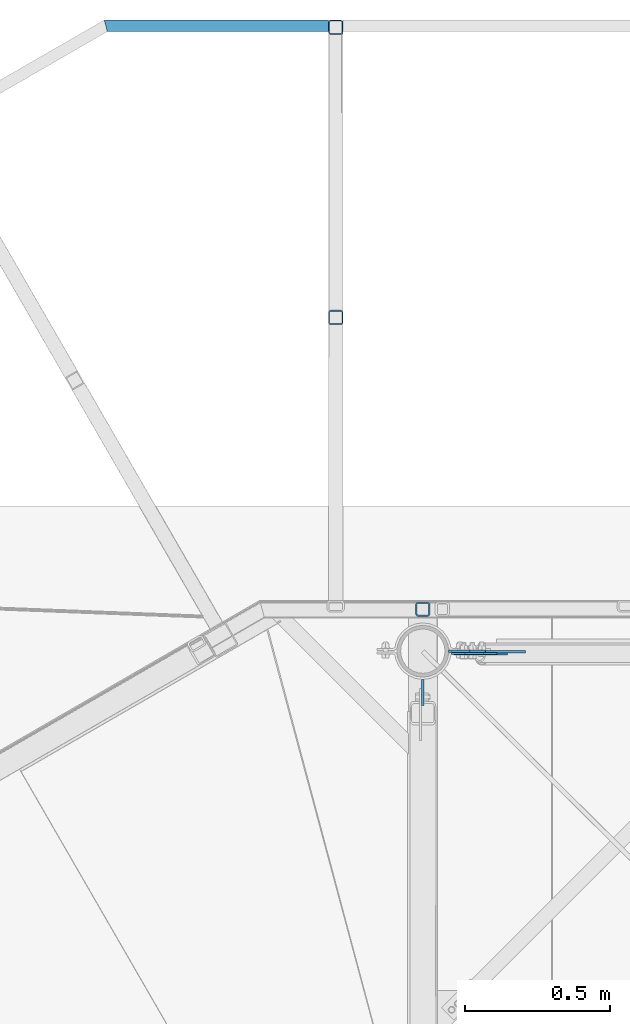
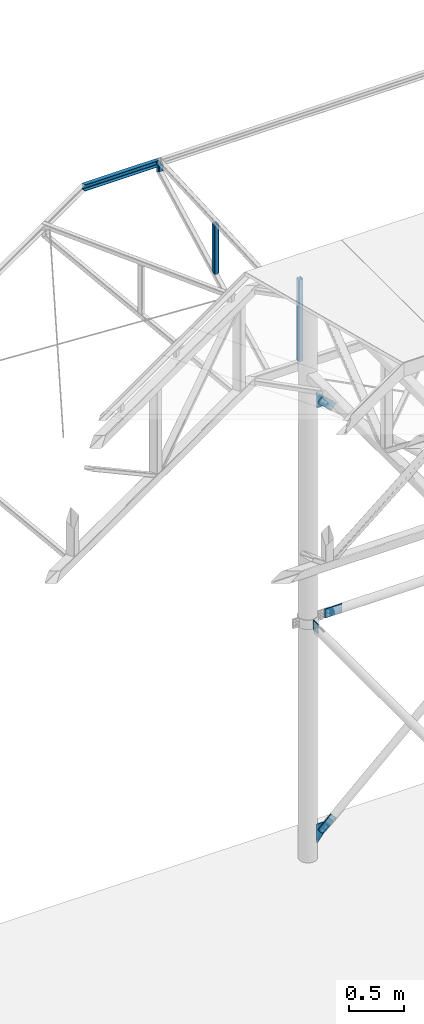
# One storey, part 89 of 132: 13 discrete accessories, 10 elements without a shape of their own.
"""IFC2X3 building model written with IfcOpenShell, lengths in millimetres."""

from ifc_helpers import new_model, si_unit, frame, origin_with_axes, origin_2d_with_axis, place, context, subcontext, project, spatial, polyline, rectangle, hollow_rectangle, u_section, outline, extrude, boolean, clip, halfspace, material, type_object, element, aggregate, save


model = new_model("IFC2X3")

# Units and contexts
model_context = context("Model", 3, precision=1e-05, world=origin_with_axes())
body_context = subcontext(model_context, "Body", "Model", "MODEL_VIEW")
ifc_project = project(units=[si_unit("LENGTHUNIT", "METRE", prefix="MILLI"), si_unit("AREAUNIT", "SQUARE_METRE"), si_unit("VOLUMEUNIT", "CUBIC_METRE"), si_unit("MASSUNIT", "GRAM", prefix="KILO"), si_unit("TIMEUNIT", "SECOND"), si_unit("PLANEANGLEUNIT", "RADIAN"), si_unit("SOLIDANGLEUNIT", "STERADIAN"), si_unit("THERMODYNAMICTEMPERATUREUNIT", "DEGREE_CELSIUS"), si_unit("LUMINOUSINTENSITYUNIT", "LUMEN")], contexts=[model_context])

# Site, building, storey
site_placement = place(None, origin_with_axes())
site = spatial("IfcSite", under=ifc_project, at=site_placement, Name="Budowa", CompositionType="ELEMENT")
building_placement = place(site_placement, origin_with_axes())
building = spatial("IfcBuilding", under=site, at=building_placement, Name="Undefined", CompositionType="ELEMENT")
storey_placement = place(building_placement, origin_with_axes())
storey = spatial("IfcBuildingStorey", under=building, at=storey_placement, Name="Undefined", CompositionType="ELEMENT", Elevation=0.0)

# Assembly, discrete accessory
assembly_1_placement = place(storey_placement, origin_with_axes())
assembly_1 = element("IfcElementAssembly", 1, at=assembly_1_placement, inside=storey, Name="Steel Assembly", AssemblyPlace="NOTDEFINED", PredefinedType="RIGID_FRAME")
ifc_material = material(Name="STEEL/S235")
discrete_accessory_type_1 = type_object("IfcDiscreteAccessoryType", Name="BLACHA")
discrete_accessory_1_placement = place(assembly_1_placement, frame((9513.89999968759, 23999.9990001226, 7825.00048828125), z_axis=(0.0, -1.0, 0.0), x_axis=(0.0, 0.0, -1.0)))
discrete_accessory_1 = element("IfcDiscreteAccessory", 2, at=discrete_accessory_1_placement, type_object=discrete_accessory_type_1, material=ifc_material, Name="BLACHA", ObjectType="BL8*126", context=body_context, shape_type="SweptSolid", body=[
    extrude(outline(polyline([(0.0, 0.0), (203.000061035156, 0.0), (203.000061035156, 10.0), (57.9996109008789, 126.000587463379), (-9.02218744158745e-10, 73.001091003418), (0.0, 0.0)])), frame((0.0, 0.0, -4.0), z_axis=(0.0, 0.0, 1.0), x_axis=(1.0, 0.0, 0.0)), (0.0, 0.0, 1.0), 8.0),
])

assembly_2_placement = place(storey_placement, origin_with_axes())
assembly_2 = element("IfcElementAssembly", 3, at=assembly_2_placement, inside=storey, Name="Steel Assembly", AssemblyPlace="NOTDEFINED", PredefinedType="RIGID_FRAME")
discrete_accessory_2_placement = place(assembly_2_placement, frame((9547.31003908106, 23989.9999976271, 7734.82673924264), z_axis=(0.67855182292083, 0.0, -0.734552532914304), x_axis=(0.734552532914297, 0.0, 0.678551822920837)))
discrete_accessory_2 = element("IfcDiscreteAccessory", 4, at=discrete_accessory_2_placement, type_object=discrete_accessory_type_1, material=ifc_material, Name="BLACHA", ObjectType="BL8*86", context=body_context, shape_type="CSG", body=[
    boolean("DIFFERENCE", boolean("DIFFERENCE", extrude(rectangle(XDim=8.0, YDim=86.0, at=origin_2d_with_axis()), frame((190.000000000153, -3.63797880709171e-12, 3.30513394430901e-13), z_axis=(-1.0, 0.0, 0.0), x_axis=(0.0, -1.0, 0.0)), (0.0, 0.0, 1.0), 190.0), extrude(outline(polyline([(0.0, 0.0), (20.0000000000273, -3.63797880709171e-12), (5.45696821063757e-12, 20.0000000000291), (0.0, 0.0)])), frame((-1.81898940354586e-12, 6.49999757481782, 42.9999999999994), z_axis=(0.0, -1.0, 0.0), x_axis=(0.0, 0.0, -1.0)), (0.0, 0.0, 1.0), 13.0)), extrude(outline(polyline([(0.0, 0.0), (20.0000000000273, -3.63797880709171e-12), (5.45696821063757e-12, 20.0000000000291), (0.0, 0.0)])), frame((-1.81898940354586e-12, -6.50000242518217, -42.9999999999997), z_axis=(0.0, 1.0, 0.0), x_axis=(0.0, 0.0, 1.0)), (0.0, 0.0, 1.0), 13.0)),
])
aggregate(assembly_2, [discrete_accessory_2])

assembly_3_placement = place(storey_placement, origin_with_axes())
assembly_3 = element("IfcElementAssembly", 5, at=assembly_3_placement, inside=storey, Name="Steel Assembly", AssemblyPlace="NOTDEFINED", PredefinedType="RIGID_FRAME")
discrete_accessory_3_placement = place(assembly_3_placement, frame((9547.31003885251, 23989.9999975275, 12497.1740173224), z_axis=(-0.67855182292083, 0.0, -0.734552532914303), x_axis=(0.734552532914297, 0.0, -0.678551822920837)))
discrete_accessory_3 = element("IfcDiscreteAccessory", 6, at=discrete_accessory_3_placement, type_object=discrete_accessory_type_1, material=ifc_material, Name="BLACHA", ObjectType="BL8*86", context=body_context, shape_type="CSG", body=[
    boolean("DIFFERENCE", boolean("DIFFERENCE", extrude(rectangle(XDim=8.0, YDim=86.0, at=origin_2d_with_axis()), frame((190.000000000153, -3.63797880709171e-12, 3.30513394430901e-13), z_axis=(-1.0, 0.0, 0.0), x_axis=(0.0, -1.0, 0.0)), (0.0, 0.0, 1.0), 190.0), extrude(outline(polyline([(0.0, 0.0), (20.0000000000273, -3.63797880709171e-12), (5.45696821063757e-12, 20.0000000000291), (0.0, 0.0)])), frame((-1.81898940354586e-12, 6.49999757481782, 42.9999999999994), z_axis=(0.0, -1.0, 0.0), x_axis=(0.0, 0.0, -1.0)), (0.0, 0.0, 1.0), 13.0)), extrude(outline(polyline([(0.0, 0.0), (20.0000000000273, -3.63797880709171e-12), (5.45696821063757e-12, 20.0000000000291), (0.0, 0.0)])), frame((-1.81898940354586e-12, -6.50000242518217, -42.9999999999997), z_axis=(0.0, 1.0, 0.0), x_axis=(0.0, 0.0, 1.0)), (0.0, 0.0, 1.0), 13.0)),
])
aggregate(assembly_3, [discrete_accessory_3])

assembly_4_placement = place(storey_placement, origin_with_axes())
assembly_4 = element("IfcElementAssembly", 7, at=assembly_4_placement, inside=storey, Name="Steel Assembly", AssemblyPlace="NOTDEFINED", PredefinedType="RIGID_FRAME")
discrete_accessory_4_placement = place(assembly_4_placement, frame((9425.00000249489, 23902.0043566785, 10166.0003799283), z_axis=(-1.0, 0.0, 0.0), x_axis=(0.0, 0.0, -1.0)))
discrete_accessory_4 = element("IfcDiscreteAccessory", 8, at=discrete_accessory_4_placement, type_object=discrete_accessory_type_1, material=ifc_material, Name="BLACHA", ObjectType="BL8*90", context=body_context, shape_type="SweptSolid", body=[
    extrude(outline(polyline([(0.0, 0.0), (100.0, 0.0), (100.0, 89.9122619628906), (0.0, 89.9122619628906), (0.0, 0.0)])), frame((0.0, 0.0, -4.0), z_axis=(0.0, 0.0, 1.0), x_axis=(1.0, 0.0, 0.0)), (0.0, 0.0, 1.0), 8.0),
])
aggregate(assembly_4, [discrete_accessory_4])

assembly_5_placement = place(storey_placement, origin_with_axes())
assembly_5 = element("IfcElementAssembly", 9, at=assembly_5_placement, inside=storey, Name="Steel Assembly", AssemblyPlace="NOTDEFINED", PredefinedType="RIGID_FRAME")
discrete_accessory_5_placement = place(assembly_5_placement, frame((9598.1366940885, 23997.9999994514, 10116.0003779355), z_axis=(0.0, -1.0, 0.0), x_axis=(1.0, 0.0, 0.0)))
discrete_accessory_5 = element("IfcDiscreteAccessory", 10, at=discrete_accessory_5_placement, type_object=discrete_accessory_type_1, material=ifc_material, Name="BLACHA", ObjectType="BL8*100", context=body_context, shape_type="SweptSolid", body=[
    extrude(outline(polyline([(0.0, -50.0), (0.0, 50.0), (180.0, 50.0), (180.0, -50.0), (0.0, -50.0)])), frame((0.0, 0.0, -4.0), z_axis=(0.0, 0.0, 1.0), x_axis=(1.0, 0.0, 0.0)), (0.0, 0.0, 1.0), 8.0),
])
aggregate(assembly_5, [discrete_accessory_5])

assembly_6_placement = place(storey_placement, origin_with_axes())
assembly_6 = element("IfcElementAssembly", 11, at=assembly_6_placement, inside=storey, Name="Steel Assembly", AssemblyPlace="NOTDEFINED", PredefinedType="RIGID_FRAME")
discrete_accessory_6_placement = place(assembly_6_placement, frame((9547.31003901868, 23991.9999976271, 7734.82673918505), z_axis=(0.67855182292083, 0.0, -0.734552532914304), x_axis=(0.734552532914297, 0.0, 0.678551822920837)))
discrete_accessory_6 = element("IfcDiscreteAccessory", 12, at=discrete_accessory_6_placement, type_object=discrete_accessory_type_1, material=ifc_material, Name="BLACHA", ObjectType="BL8*69", context=body_context, shape_type="SweptSolid", body=[
    extrude(rectangle(XDim=8.0, YDim=69.0, at=origin_2d_with_axis()), frame((149.999999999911, 0.0, 0.0), z_axis=(-1.0, 0.0, 0.0), x_axis=(0.0, -1.0, 0.0)), (0.0, 0.0, 1.0), 150.0),
])
aggregate(assembly_6, [discrete_accessory_6])

# Discrete accessory
discrete_accessory_7_placement = place(assembly_1_placement, frame((9513.89999962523, 23999.9999976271, 7824.91122862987), z_axis=(0.0, -1.0, 0.0), x_axis=(0.0, 0.0, -1.0)))
discrete_accessory_7 = element("IfcDiscreteAccessory", 13, at=discrete_accessory_7_placement, type_object=discrete_accessory_type_1, material=ifc_material, Name="BLACHA", ObjectType="BL8*126", context=body_context, shape_type="SweptSolid", body=[
    extrude(outline(polyline([(0.0, 0.0), (174.721649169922, 0.0), (174.721649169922, 10.0), (58.0296516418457, 126.322563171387), (0.0, 72.7169723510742), (0.0, 0.0)])), frame((0.0, 0.0, -4.0), z_axis=(0.0, 0.0, 1.0), x_axis=(1.0, 0.0, 0.0)), (0.0, 0.0, 1.0), 8.0),
])

# Assembly, discrete accessory
assembly_7_placement = place(storey_placement, origin_with_axes())
assembly_7 = element("IfcElementAssembly", 14, at=assembly_7_placement, inside=storey, Name="Steel Assembly", AssemblyPlace="NOTDEFINED", PredefinedType="RIGID_FRAME")
discrete_accessory_8_placement = place(assembly_7_placement, frame((9547.31003879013, 23991.9999975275, 12497.17401738), z_axis=(-0.67855182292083, 0.0, -0.734552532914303), x_axis=(0.734552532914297, 0.0, -0.678551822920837)))
discrete_accessory_8 = element("IfcDiscreteAccessory", 15, at=discrete_accessory_8_placement, type_object=discrete_accessory_type_1, material=ifc_material, Name="BLACHA", ObjectType="BL8*69", context=body_context, shape_type="SweptSolid", body=[
    extrude(rectangle(XDim=8.0, YDim=69.0, at=origin_2d_with_axis()), frame((149.999999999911, 0.0, 0.0), z_axis=(-1.0, 0.0, 0.0), x_axis=(0.0, -1.0, 0.0)), (0.0, 0.0, 1.0), 150.0),
])
aggregate(assembly_7, [discrete_accessory_8])

# Discrete accessory
discrete_accessory_9_placement = place(assembly_1_placement, frame((9513.89999961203, 23999.9999975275, 12581.8111792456), z_axis=(0.0, -1.0, 0.0), x_axis=(0.0, 0.0, -1.0)))
discrete_accessory_9 = element("IfcDiscreteAccessory", 16, at=discrete_accessory_9_placement, type_object=discrete_accessory_type_1, material=ifc_material, Name="BLACHA", ObjectType="BL8*126", context=body_context, shape_type="SweptSolid", body=[
    extrude(outline(polyline([(0.0, 0.0), (174.721649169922, 0.0), (174.721649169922, 72.7169723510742), (116.692001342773, 126.322563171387), (0.0, 10.0), (0.0, 0.0)])), frame((0.0, 0.0, -4.0), z_axis=(0.0, 0.0, 1.0), x_axis=(1.0, 0.0, 0.0)), (0.0, 0.0, 1.0), 8.0),
])

aggregate(assembly_1, [discrete_accessory_1, discrete_accessory_7, discrete_accessory_9])

# Assembly, discrete accessory
assembly_8_placement = place(storey_placement, origin_with_axes())
assembly_8 = element("IfcElementAssembly", 17, at=assembly_8_placement, inside=storey, Name="Steel Assembly", AssemblyPlace="NOTDEFINED", PredefinedType="RIGID_FRAME")
discrete_accessory_type_2 = type_object("IfcDiscreteAccessoryType", Name="BEAM")
discrete_accessory_10_placement = place(assembly_8_placement, frame((9099.99999998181, 26155.0003815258, 13945.0050191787), z_axis=(0.0, 0.0, -1.0), x_axis=(-1.0, 0.0, 0.0)))
discrete_accessory_10 = element("IfcDiscreteAccessory", 18, at=discrete_accessory_10_placement, type_object=discrete_accessory_type_2, material=ifc_material, Name="BEAM", ObjectType="C70*40*4", context=body_context, shape_type="Clipping", body=[
    clip(extrude(u_section(Depth=70.0, FlangeWidth=40.0, WebThickness=4.0, FlangeThickness=4.0, FilletRadius=6.0, at=origin_2d_with_axis()), frame((772.941602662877, 0.0, 0.0), z_axis=(-1.0, 0.0, 0.0), x_axis=(0.0, -1.0, 0.0)), (0.0, 0.0, 1.0), 772.94), halfspace(frame((772.888016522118, 20.0, 0.0), z_axis=(0.965930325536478, -0.25880225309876, 0.0), x_axis=(0.0, 0.0, -1.0)), False)),
])
aggregate(assembly_8, [discrete_accessory_10])

# Assembly, discrete accessories
assembly_9_placement = place(storey_placement, origin_with_axes())
assembly_9 = element("IfcElementAssembly", 19, at=assembly_9_placement, inside=storey, Name="Steel Assembly", AssemblyPlace="NOTDEFINED", PredefinedType="RIGID_FRAME")
discrete_accessory_11_placement = place(assembly_9_placement, frame((9124.99999998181, 25150.0003815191, 13878.9400283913), z_axis=(1.0, 0.0, 0.0), x_axis=(0.0, 0.0, -1.0)))
discrete_accessory_11 = element("IfcDiscreteAccessory", 20, at=discrete_accessory_11_placement, type_object=discrete_accessory_type_2, material=ifc_material, Name="BEAM", ObjectType="SHS50*4", context=body_context, shape_type="Clipping", body=[
    clip(clip(extrude(hollow_rectangle(XDim=50.0, YDim=50.0, WallThickness=4.0, InnerFilletRadius=4.0, OuterFilletRadius=8.0, at=origin_2d_with_axis()), frame((545.085010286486, 0.0, 0.0), z_axis=(-1.0, 0.0, 0.0), x_axis=(0.0, -1.0, 0.0)), (0.0, 0.0, 1.0), 559.36), halfspace(frame((536.667324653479, -11.620388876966, 1000.0), z_axis=(-0.885407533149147, -0.464815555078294, 0.0), x_axis=(0.464815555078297, -0.885407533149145, 0.0)), True)), halfspace(frame((0.185048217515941, 1.24844042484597, 1000.0), z_axis=(0.998752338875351, 0.0499376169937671, 0.0), x_axis=(-0.0499376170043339, 0.998752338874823, 2.09020387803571e-11)), True)),
])
discrete_accessory_12_placement = place(assembly_9_placement, frame((9124.99999998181, 26150.0003815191, 13979.9998398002), z_axis=(1.0, 0.0, 0.0), x_axis=(0.0, 0.0, -1.0)))
discrete_accessory_12 = element("IfcDiscreteAccessory", 21, at=discrete_accessory_12_placement, type_object=discrete_accessory_type_2, material=ifc_material, Name="BEAM", ObjectType="SHS50*4", context=body_context, shape_type="Clipping", body=[
    clip(clip(extrude(hollow_rectangle(XDim=50.0, YDim=50.0, WallThickness=4.0, InnerFilletRadius=4.0, OuterFilletRadius=8.0, at=origin_2d_with_axis()), frame((176.695154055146, 0.0, 0.0), z_axis=(-1.0, 0.0, 0.0), x_axis=(0.0, -1.0, 0.0)), (0.0, 0.0, 1.0), 192.23), halfspace(frame((149.999998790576, 25.0, 0.0), z_axis=(0.855808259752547, -0.517293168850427, 0.0), x_axis=(0.0, 0.0, -1.0)), False)), halfspace(frame((-0.00517939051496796, 25.0, 0.0), z_axis=(-0.689225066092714, -0.724547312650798, 2.88487317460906e-10), x_axis=(0.0, 0.0, 1.0)), False)),
])
aggregate(assembly_9, [discrete_accessory_11, discrete_accessory_12])

# Assembly, discrete accessory
assembly_10_placement = place(storey_placement, origin_with_axes())
assembly_10 = element("IfcElementAssembly", 22, at=assembly_10_placement, inside=storey, Name="Steel Assembly", AssemblyPlace="NOTDEFINED", PredefinedType="RIGID_FRAME")
discrete_accessory_13_placement = place(assembly_10_placement, frame((9424.99999994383, 24144.9000000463, 12880.0), z_axis=(0.0, 0.0, 1.0), x_axis=(0.0, -1.0, 0.0)))
discrete_accessory_13 = element("IfcDiscreteAccessory", 23, at=discrete_accessory_13_placement, type_object=discrete_accessory_type_2, material=ifc_material, Name="BEAM", ObjectType="SHS50*5", context=body_context, shape_type="Clipping", body=[
    clip(extrude(hollow_rectangle(XDim=50.0, YDim=50.0, WallThickness=5.0, InnerFilletRadius=5.0, OuterFilletRadius=10.0, at=origin_2d_with_axis()), frame((0.0, 0.0, 900.0), z_axis=(0.0, 0.0, -1.0), x_axis=(0.0, 1.0, 0.0)), (0.0, 0.0, 1.0), 900.0), halfspace(frame((1000.0, 0.0, 0.0), z_axis=(0.0, 0.0, 1.0), x_axis=(0.0, -1.0, 0.0)), True)),
])
aggregate(assembly_10, [discrete_accessory_13])

save(model, "model.ifc")
